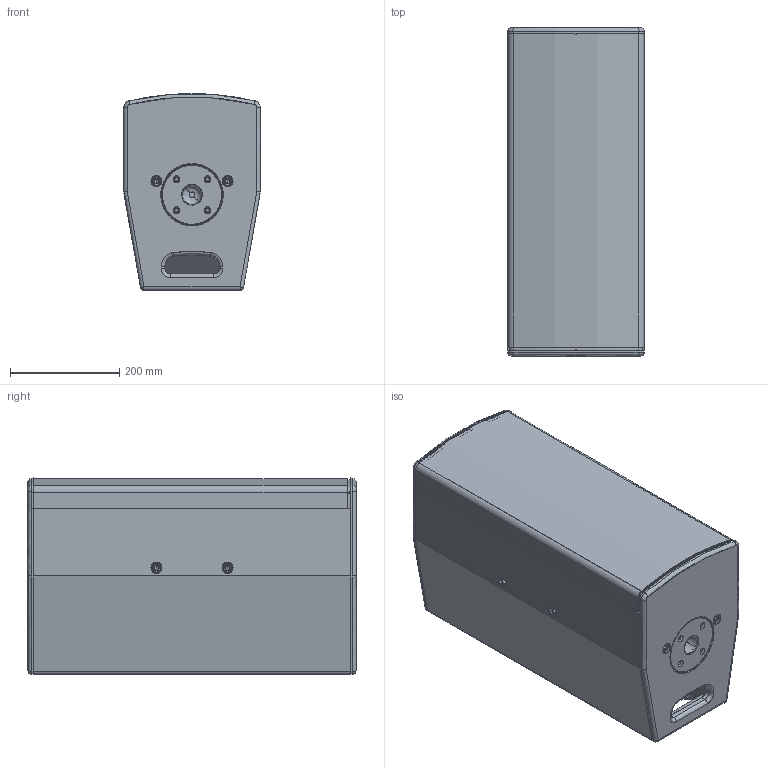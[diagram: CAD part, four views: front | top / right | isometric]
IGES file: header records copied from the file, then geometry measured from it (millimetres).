
Start section: SolidWorks IGES file using analytic representation for surfaces
Global section: file name: D:\Entwicklungen\Projekte fertig.ung\F-Serie\Solid\3D Daten Homepage\SEEBURG F3.IGS; native system: SolidWorks 2009; preprocessor: SolidWorks 2009; author: Alex; date: 260304.163104; units: millimetre
Bounding box: 250 x 600 x 360 mm (x, y, z)
Surface area: 2026099.3 mm2 (no closed solid volume)
Topology: 0 solids, 0 shells, 3584 faces, 32434 edges, 32192 vertices
Faces by surface type: bspline 2389, revolution 1195
